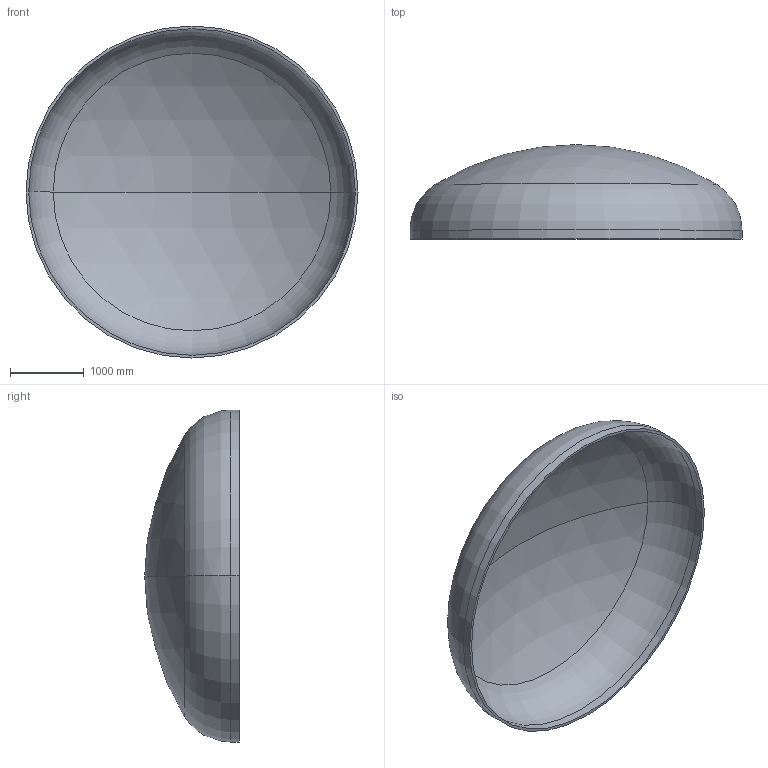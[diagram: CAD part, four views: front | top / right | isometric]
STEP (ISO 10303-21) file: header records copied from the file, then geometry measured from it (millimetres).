
FILE_DESCRIPTION (( 'STEP AP203' ), '1' );
FILE_NAME ('DIN 28013 Korbbogenform_-_Boden DIN 28013 - 4500 x 120 - I - s=37.step', '2016-07-01T23:21:56', ( '' ), ( '' ), 'SwSTEP 2.0', 'SolidWorks 2013', '' );
FILE_SCHEMA (( 'CONFIG_CONTROL_DESIGN' ));
Length unit declared in the file: millimetre
Products named in the file (1): DIN 28013 Korbbogenform_-_Boden DIN 28013 - 4500 x 120 - I - s=37
Bounding box: 4500 x 1280.17 x 4500 mm (x, y, z)
Volume: 868906826.5 mm3; surface area: 47489560.5 mm2
Topology: 1 solids, 1 shells, 13 faces, 24 edges, 14 vertices
Faces by surface type: torus 4, cylinder 4, sphere 4, plane 1
Entity records: 407 total; most frequent: DIRECTION 72, CARTESIAN_POINT 52, ORIENTED_EDGE 48, AXIS2_PLACEMENT_3D 34, EDGE_CURVE 24, CIRCLE 20, VERTEX_POINT 14, EDGE_LOOP 14
